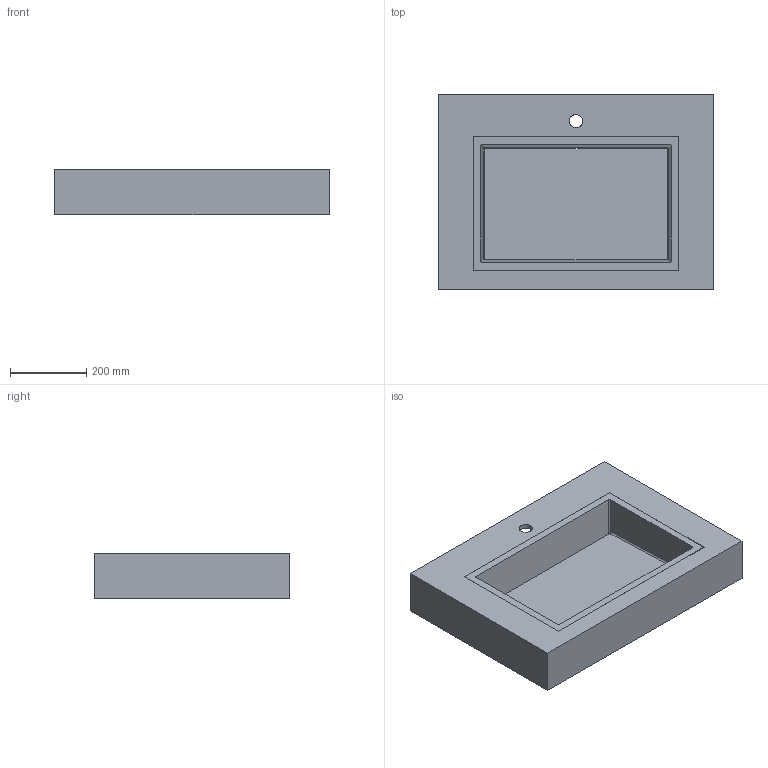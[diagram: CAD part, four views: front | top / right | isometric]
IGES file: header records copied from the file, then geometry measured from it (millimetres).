
Start section: Data from Parasolid IGES Translator 19.0.9, Copyright(c) 2006 Siemens PL M Software. All Rights Reserved.
Global section: file name: noorth-top-H 12 D 51,3 W 72_6551.igs; native system: By Siemens PLM Incorporated; preprocessor: XPlus GENERIC/IGES 19.0.9; author: Noname; organization: Noname; date: 20200603.095114; units: metre
Bounding box: 720 x 512 x 120 mm (x, y, z)
Volume: 8508641.4 mm3; surface area: 1486289.7 mm2
Topology: 2 solids, 2 shells, 97 faces, 235 edges, 138 vertices
Faces by surface type: plane 41, bspline 29, cylinder 27
Full cylindrical faces by diameter (mm): 34.9 x1
